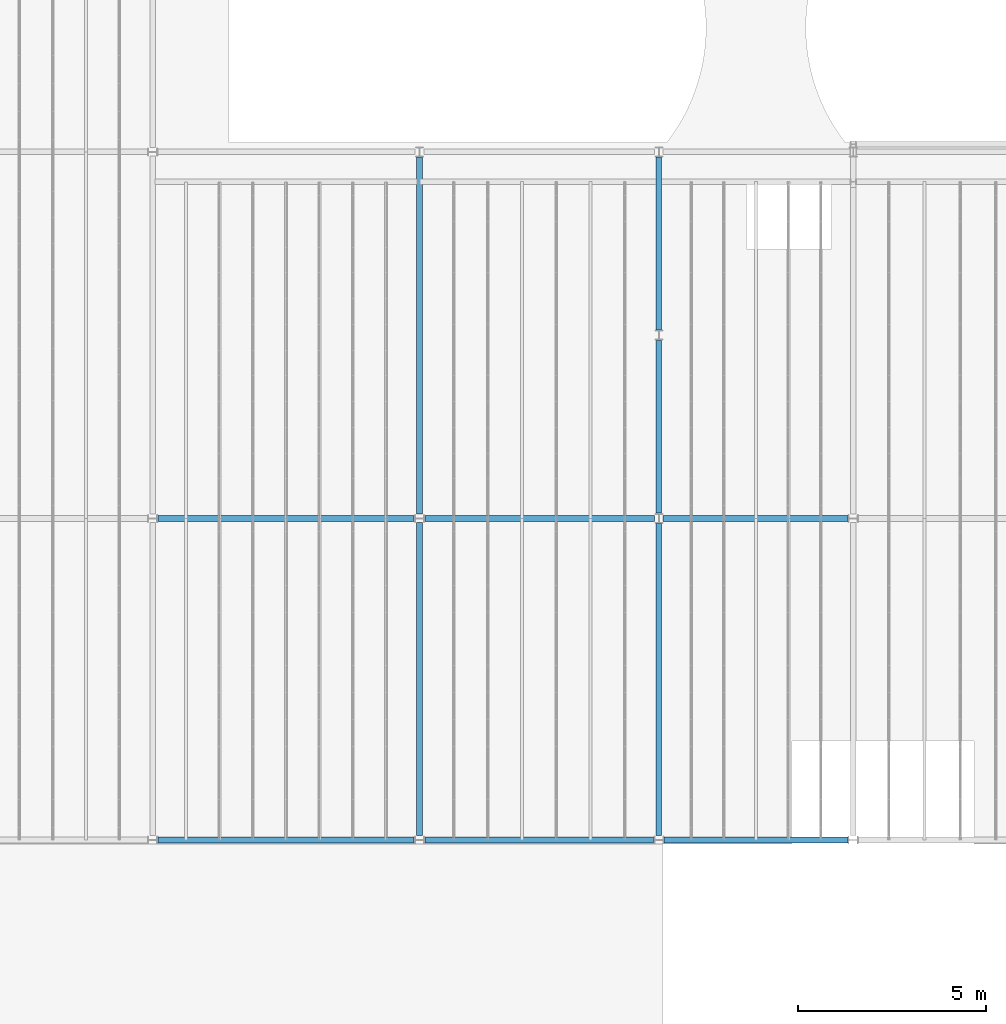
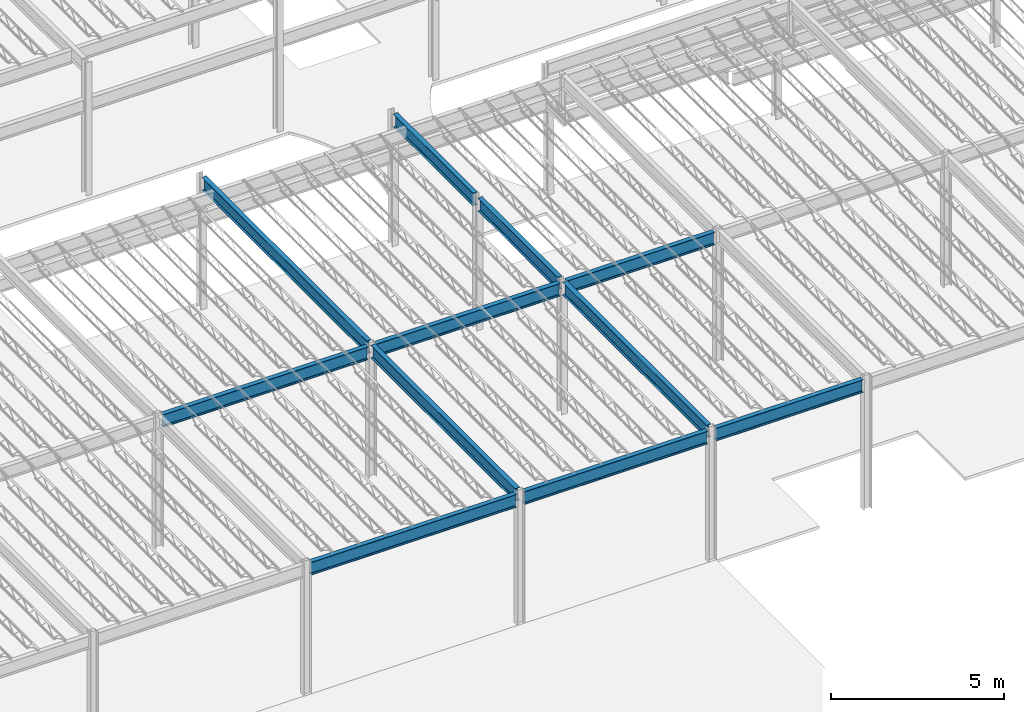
# One storey, part 9 of 119: 11 beams.
"""IFC2X3 building model written with IfcOpenShell, lengths in metres."""

import ifcopenshell
import ifcopenshell.guid

model = None  # the IFC model being written
_history = None  # IfcOwnerHistory: only IFC2X3 demands one
_inside = {}  # id of a spatial element -> (the spatial element, [elements in it])
_under = {}  # id of a project, library or spatial element -> (it, [spatial elements below it])
_declared = {}  # id of a project -> (the project, [libraries it declares])
_typed = {}  # id of a type object -> (the type object, [elements of that type])
_made_of = {}  # id of a material, layer set ... -> (it, [elements and type objects made of it])


def new_model(schema):
    """Start an empty IFC model of exactly this schema.

    Asked for "IFC4X3", IfcOpenShell would pick the latest addendum, in which some entities
    have other attributes; the version numbers below select the first issue.
    IFC2X3 requires an IfcOwnerHistory on every rooted entity: one is made here for all.
    """
    global model, _history
    if schema == "IFC4X3":
        model = ifcopenshell.file(schema_version=(4, 3, 0, 0))
    else:
        model = ifcopenshell.file(schema=schema)
    _inside.clear()
    _under.clear()
    _declared.clear()
    _typed.clear()
    _made_of.clear()
    _history = None
    if model.schema == "IFC2X3":
        org = make("IfcOrganization", Name="unknown")
        user = make(
            "IfcPersonAndOrganization",
            ThePerson=make("IfcPerson", FamilyName="unknown"),
            TheOrganization=org,
        )
        app = make(
            "IfcApplication",
            ApplicationDeveloper=org,
            Version="unknown",
            ApplicationFullName="unknown",
            ApplicationIdentifier="unknown",
        )
        _history = make(
            "IfcOwnerHistory",
            OwningUser=user,
            OwningApplication=app,
            ChangeAction="ADDED",
            CreationDate=0,
        )
    return model


def make(cls, **values):
    """One entity of the class cls with the attributes given. An attribute that is None is left unset."""
    return model.create_entity(
        cls, **{name: value for name, value in values.items() if value is not None}
    )


def entity(cls, *values):
    """Any entity or typed value of the class cls, its attributes in the order of the schema. None: left unset."""
    e = model.create_entity(cls)
    for i, value in enumerate(values):
        if value is not None:
            e[i] = value
    return e


def rooted(cls, **values):
    """An entity with a GlobalId (a new one), such as an element, a storey or a relation."""
    return make(cls, GlobalId=ifcopenshell.guid.new(), OwnerHistory=_history, **values)


def si_unit(unit_type, name, prefix=None):
    """IfcSIUnit, for example si_unit("LENGTHUNIT", "METRE", prefix="MILLI")."""
    return make("IfcSIUnit", UnitType=unit_type, Prefix=prefix, Name=name)


def converted_unit(unit_type, name, factor, base, dimensions=None, offset=None):
    """IfcConversionBasedUnit, such as the inch: factor (a typed value) times the base unit."""
    return make(
        "IfcConversionBasedUnit"
        if offset is None
        else "IfcConversionBasedUnitWithOffset",
        ConversionOffset=offset,
        Dimensions=None
        if dimensions is None
        else entity("IfcDimensionalExponents", *dimensions),
        UnitType=unit_type,
        Name=name,
        ConversionFactor=make(
            "IfcMeasureWithUnit", ValueComponent=factor, UnitComponent=base
        ),
    )


def assignment(units):
    """IfcUnitAssignment: the units of a project."""
    return None if units is None else make("IfcUnitAssignment", Units=units)


def point(xyz):
    """IfcCartesianPoint."""
    return None if xyz is None else make("IfcCartesianPoint", Coordinates=xyz)


def direction(xyz):
    """IfcDirection."""
    return None if xyz is None else make("IfcDirection", DirectionRatios=xyz)


def frame(location, z_axis=None, x_axis=None):
    """IfcAxis2Placement3D, a coordinate frame: its origin and axes. An axis left out is left unset."""
    return make(
        "IfcAxis2Placement3D",
        Location=point(location),
        Axis=direction(z_axis),
        RefDirection=direction(x_axis),
    )


def frame_2d(location, x_axis=None):
    """IfcAxis2Placement2D, a coordinate frame in the plane: its origin and x axis."""
    return make(
        "IfcAxis2Placement2D", Location=point(location), RefDirection=direction(x_axis)
    )


def origin():
    """The frame at (0, 0, 0) with its axes left unset."""
    return frame((0.0, 0.0, 0.0))


def place(relative_to, where):
    """IfcLocalPlacement: puts the frame where relative to a parent placement (None: the world)."""
    return make(
        "IfcLocalPlacement", PlacementRelTo=relative_to, RelativePlacement=where
    )


def context(
    kind, dimensions, precision=None, world=None, true_north=None, identifier=None
):
    """IfcGeometricRepresentationContext, for example the 3D "Model" context."""
    return make(
        "IfcGeometricRepresentationContext",
        ContextIdentifier=identifier,
        ContextType=kind,
        CoordinateSpaceDimension=dimensions,
        Precision=precision,
        WorldCoordinateSystem=world,
        TrueNorth=true_north,
    )


def project(units=None, contexts=None):
    """IfcProject with its units and contexts."""
    return rooted(
        "IfcProject",
        Name="project",
        RepresentationContexts=contexts,
        UnitsInContext=assignment(units),
    )


def spatial(cls, under=None, at=None, **own):
    """A site, building, storey or space (cls), placed at a placement, below another one or the project."""
    s = rooted(cls, ObjectPlacement=at, **own)
    if under is not None:
        _under.setdefault(under.id(), (under, []))[1].append(s)
    return s


def polyline(points):
    """IfcPolyline through the points."""
    return make("IfcPolyline", Points=[point(p) for p in points])


def circle_curve(where, radius):
    """IfcCircle in the frame where."""
    return make("IfcCircle", Position=where, Radius=radius)


def parameter(value):
    """IfcParameterValue: where a trimmed curve begins or ends, as a parameter of its basis curve."""
    return model.create_entity("IfcParameterValue", value)


def trimmed(basis, trim1, trim2, sense, master):
    """IfcTrimmedCurve: the piece of a basis curve between two trims."""
    return make(
        "IfcTrimmedCurve",
        BasisCurve=basis,
        Trim1=trim1,
        Trim2=trim2,
        SenseAgreement=sense,
        MasterRepresentation=master,
    )


def segment(curve, same_sense, transition):
    """IfcCompositeCurveSegment."""
    return make(
        "IfcCompositeCurveSegment",
        Transition=transition,
        SameSense=same_sense,
        ParentCurve=curve,
    )


def composite_curve(segments, self_intersect=None):
    """IfcCompositeCurve: segments joined end to end."""
    return make("IfcCompositeCurve", Segments=segments, SelfIntersect=self_intersect)


def outline(outer, holes=None, kind="AREA"):
    """IfcArbitraryClosedProfileDef: a profile drawn as a closed curve; with holes, ...WithVoids."""
    if holes is None:
        return make("IfcArbitraryClosedProfileDef", ProfileType=kind, OuterCurve=outer)
    return make(
        "IfcArbitraryProfileDefWithVoids",
        ProfileType=kind,
        OuterCurve=outer,
        InnerCurves=holes,
    )


def extrude(swept, where, along, depth):
    """IfcExtrudedAreaSolid: the profile swept, set in the frame where, extruded along a direction by depth."""
    return make(
        "IfcExtrudedAreaSolid",
        SweptArea=swept,
        Position=where,
        ExtrudedDirection=direction(along),
        Depth=depth,
    )


def shape(context_of_items, identifier, shape_type, items):
    """IfcShapeRepresentation: the items that make up one representation, for example the "Body"."""
    return make(
        "IfcShapeRepresentation",
        ContextOfItems=context_of_items,
        RepresentationIdentifier=identifier,
        RepresentationType=shape_type,
        Items=items,
    )


def material(Name=None, Category=None):
    """IfcMaterial."""
    return make("IfcMaterial", Name=Name, Category=Category)


def made_of(thing, what):
    """Note that an element or type object is made of a material, layer set ...; save() writes the relation."""
    if what is not None:
        _made_of.setdefault(what.id(), (what, []))[1].append(thing)
    return thing


def element(
    cls,
    number,
    at=None,
    inside=None,
    cuts=None,
    type_object=None,
    material=None,
    context=None,
    identifier="Body",
    shape_type=None,
    held_by="IfcProductDefinitionShape",
    body=None,
    shapes=None,
    **own,
):
    """One element of the class cls, such as IfcWall. Its Tag is "e" and its number.

    at: its placement. inside: the storey or other place that contains it. cuts: it is an
    opening in that element (IfcRelVoidsElement). A single representation is given by context,
    identifier, shape_type and body (its items); several are given by shapes. held_by: the class
    of the entity that holds the representations. save() writes the other relations.
    """
    e = rooted(cls, Tag="e%d" % number, ObjectPlacement=at, **own)
    if body is not None:
        shapes = [shape(context, identifier, shape_type, body)]
    if shapes is not None:
        e.Representation = make(held_by, Representations=shapes)
    if inside is not None:
        _inside.setdefault(inside.id(), (inside, []))[1].append(e)
    if cuts is not None:
        rooted(
            "IfcRelVoidsElement", RelatingBuildingElement=cuts, RelatedOpeningElement=e
        )
    if type_object is not None:
        _typed.setdefault(type_object.id(), (type_object, []))[1].append(e)
    return made_of(e, material)


def aggregate(whole, parts):
    """IfcRelAggregates: a whole, such as a stair, and the parts it consists of."""
    return rooted("IfcRelAggregates", RelatingObject=whole, RelatedObjects=parts)


def save(model, path):
    """Write the relations noted so far, then the file.

    IfcRelAggregates (storeys below a building ...), IfcRelContainedInSpatialStructure (elements
    in a storey), IfcRelDefinesByType, IfcRelAssociatesMaterial and IfcRelDeclares: one each for
    every whole, place, type object, material and project.
    """
    for whole, parts in _under.values():
        aggregate(whole, parts)
    for where, things in _inside.values():
        rooted(
            "IfcRelContainedInSpatialStructure",
            RelatedElements=things,
            RelatingStructure=where,
        )
    for kind, things in _typed.values():
        rooted("IfcRelDefinesByType", RelatedObjects=things, RelatingType=kind)
    for what, things in _made_of.values():
        rooted("IfcRelAssociatesMaterial", RelatedObjects=things, RelatingMaterial=what)
    for by, libraries in _declared.values():
        rooted("IfcRelDeclares", RelatingContext=by, RelatedDefinitions=libraries)
    model.write(path)


model = new_model("IFC2X3")

# Units and contexts
model_context = context("Model", 3, precision=1e-09, world=origin())
plan_context = context("Plan", 3, precision=1e-09, world=origin())
ifc_project = project(units=[si_unit("LENGTHUNIT", "METRE"), si_unit("AREAUNIT", "SQUARE_METRE"), si_unit("VOLUMEUNIT", "CUBIC_METRE"), converted_unit("PLANEANGLEUNIT", "DEGREE", entity("IfcRatioMeasure", 0.01745329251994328), si_unit("PLANEANGLEUNIT", "RADIAN"), dimensions=[0, 0, 0, 0, 0, 0, 0]), si_unit("TIMEUNIT", "SECOND")], contexts=[model_context, plan_context])

# Site, building, storey
site_placement = place(None, origin())
site = spatial("IfcSite", under=ifc_project, at=site_placement, Name="Default", CompositionType="ELEMENT")
building_placement = place(site_placement, origin())
building = spatial("IfcBuilding", under=site, at=building_placement, CompositionType="ELEMENT")
storey_placement = place(building_placement, frame((0.0, 0.0, 4.570000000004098)))
storey = spatial("IfcBuildingStorey", under=building, at=storey_placement, Name="Second Floor", CompositionType="ELEMENT", Elevation=4.570000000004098)

# Beams
ifc_material = material(Name="Metal - Steel - 345 MPa")
beam_1_placement = place(storey_placement, frame((-26.44265752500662, 18.61000000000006, 4.61649999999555), z_axis=(0.0, 0.0, 1.0), x_axis=(0.0, 1.0, 0.0)))
element("IfcBeam", 1, at=beam_1_placement, inside=storey, material=ifc_material, Name="M_W-Wide Flange:W460X60:W460X60", ObjectType="M_W-Wide Flange:W460X60", context=model_context, shape_type="SweptSolid", body=[
    extrude(outline(composite_curve([segment(polyline([(0.2142000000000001, -0.07650000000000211), (0.2275000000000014, -0.07650000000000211)]), True, "CONTINUOUS"), segment(polyline([(0.2275000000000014, -0.07650000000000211), (0.2275000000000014, 0.07649999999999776)]), True, "CONTINUOUS"), segment(polyline([(0.2275000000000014, 0.07649999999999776), (0.2142000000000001, 0.07649999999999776)]), True, "CONTINUOUS"), segment(polyline([(0.2142000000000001, 0.07649999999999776), (0.2142000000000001, 0.0216999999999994)]), True, "CONTINUOUS"), segment(trimmed(circle_curve(frame_2d((0.1965000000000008, 0.0216999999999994), x_axis=(1.0, 0.0)), 0.0177), [parameter(269.9999999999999)], [parameter(359.9999999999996)], True, "PARAMETER"), False, "CONTINUOUS"), segment(polyline([(0.1965000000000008, 0.003999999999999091), (-0.1964999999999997, 0.003999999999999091)]), True, "CONTINUOUS"), segment(trimmed(circle_curve(frame_2d((-0.1964999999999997, 0.0216999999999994), x_axis=(0.0, -1.0)), 0.0177), [parameter(269.9999999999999)], [parameter(359.9999999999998)], True, "PARAMETER"), False, "CONTINUOUS"), segment(polyline([(-0.2142, 0.0216999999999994), (-0.2142, 0.07649999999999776)]), True, "CONTINUOUS"), segment(polyline([(-0.2142, 0.07649999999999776), (-0.2274999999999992, 0.07649999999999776)]), True, "CONTINUOUS"), segment(polyline([(-0.2274999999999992, 0.07649999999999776), (-0.2274999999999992, -0.07650000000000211)]), True, "CONTINUOUS"), segment(polyline([(-0.2274999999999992, -0.07650000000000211), (-0.2142, -0.07650000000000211)]), True, "CONTINUOUS"), segment(polyline([(-0.2142, -0.07650000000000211), (-0.2142, -0.02170000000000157)]), True, "CONTINUOUS"), segment(trimmed(circle_curve(frame_2d((-0.1964999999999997, -0.02170000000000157), x_axis=(-1.0, 0.0)), 0.0177), [parameter(269.9999999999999)], [parameter(359.9999999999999)], True, "PARAMETER"), False, "CONTINUOUS"), segment(polyline([(-0.1964999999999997, -0.004000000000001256), (0.1965000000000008, -0.004000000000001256)]), True, "CONTINUOUS"), segment(trimmed(circle_curve(frame_2d((0.1965000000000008, -0.02170000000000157), x_axis=(0.0, 1.0)), 0.0177), [parameter(269.9999999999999)], [parameter(5.088887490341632e-14)], True, "PARAMETER"), False, "CONTINUOUS"), segment(polyline([(0.2142000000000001, -0.02170000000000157), (0.2142000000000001, -0.07650000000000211)]), True, "CONTINUOUS")], self_intersect=False)), frame((0.0, 6.966142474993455, -0.2275000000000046), z_axis=(0.0, -1.0, 0.0), x_axis=(0.0, 0.0, -1.0)), (0.0, 0.0, 1.0), 6.827600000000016),
])
beam_2_placement = place(storey_placement, frame((-20.06296151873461, 18.61000000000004, 4.61649999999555), z_axis=(0.0, 0.0, 1.0), x_axis=(0.0, 1.0, 0.0)))
element("IfcBeam", 2, at=beam_2_placement, inside=storey, material=ifc_material, Name="M_W-Wide Flange:W460X60:W460X60", ObjectType="M_W-Wide Flange:W460X60", context=model_context, shape_type="SweptSolid", body=[
    extrude(outline(composite_curve([segment(polyline([(0.2142000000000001, -0.0765000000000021), (0.2275000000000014, -0.0765000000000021)]), True, "CONTINUOUS"), segment(polyline([(0.2275000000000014, -0.0765000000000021), (0.2275000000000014, 0.07649999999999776)]), True, "CONTINUOUS"), segment(polyline([(0.2275000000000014, 0.07649999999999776), (0.2142000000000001, 0.07649999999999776)]), True, "CONTINUOUS"), segment(polyline([(0.2142000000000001, 0.07649999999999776), (0.2142000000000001, 0.0216999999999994)]), True, "CONTINUOUS"), segment(trimmed(circle_curve(frame_2d((0.1965000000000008, 0.0216999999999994), x_axis=(0.0, 1.0)), 0.0177), [parameter(180.0)], [parameter(269.9999999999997)], True, "PARAMETER"), False, "CONTINUOUS"), segment(polyline([(0.1965000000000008, 0.00399999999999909), (-0.1964999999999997, 0.00399999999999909)]), True, "CONTINUOUS"), segment(trimmed(circle_curve(frame_2d((-0.1964999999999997, 0.0216999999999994), x_axis=(0.0, 1.0)), 0.0177), [parameter(90.00000000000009)], [parameter(179.9999999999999)], True, "PARAMETER"), False, "CONTINUOUS"), segment(polyline([(-0.2142, 0.0216999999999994), (-0.2142, 0.07649999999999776)]), True, "CONTINUOUS"), segment(polyline([(-0.2142, 0.07649999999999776), (-0.2274999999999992, 0.07649999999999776)]), True, "CONTINUOUS"), segment(polyline([(-0.2274999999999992, 0.07649999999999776), (-0.2274999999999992, -0.0765000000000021)]), True, "CONTINUOUS"), segment(polyline([(-0.2274999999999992, -0.0765000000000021), (-0.2142, -0.0765000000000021)]), True, "CONTINUOUS"), segment(polyline([(-0.2142, -0.0765000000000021), (-0.2142, -0.02170000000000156)]), True, "CONTINUOUS"), segment(trimmed(circle_curve(frame_2d((-0.1964999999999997, -0.02170000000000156), x_axis=(0.0, 1.0)), 0.0177), [parameter(359.9999999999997)], [parameter(89.99999999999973)], True, "PARAMETER"), False, "CONTINUOUS"), segment(polyline([(-0.1964999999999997, -0.004000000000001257), (0.1965000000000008, -0.004000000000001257)]), True, "CONTINUOUS"), segment(trimmed(circle_curve(frame_2d((0.1965000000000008, -0.02170000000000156), x_axis=(0.0, 1.0)), 0.0177), [parameter(269.9999999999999)], [parameter(0.0)], True, "PARAMETER"), False, "CONTINUOUS"), segment(polyline([(0.2142000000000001, -0.02170000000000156), (0.2142000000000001, -0.0765000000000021)]), True, "CONTINUOUS")], self_intersect=False)), frame((0.0, 6.235838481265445, -0.2275000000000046), z_axis=(0.0, -1.0, 0.0), x_axis=(0.0, 0.0, -1.0)), (0.0, 0.0, 1.0), 6.124100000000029),
])
beam_3_placement = place(storey_placement, frame((-20.06000000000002, 23.49837058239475, 4.679999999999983)))
element("IfcBeam", 3, at=beam_3_placement, inside=storey, material=ifc_material, Name="M_W-Wide Flange:W460X60:W460X60", ObjectType="M_W-Wide Flange:W460X60", context=model_context, shape_type="SweptSolid", body=[
    extrude(outline(composite_curve([segment(polyline([(-0.07649999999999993, -0.214199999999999), (-0.07649999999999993, -0.2275000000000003)]), True, "CONTINUOUS"), segment(polyline([(-0.07649999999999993, -0.2275000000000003), (0.07649999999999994, -0.2275000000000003)]), True, "CONTINUOUS"), segment(polyline([(0.07649999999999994, -0.2275000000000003), (0.07649999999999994, -0.214199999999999)]), True, "CONTINUOUS"), segment(polyline([(0.07649999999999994, -0.214199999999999), (0.0216999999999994, -0.214199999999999)]), True, "CONTINUOUS"), segment(trimmed(circle_curve(frame_2d((0.0216999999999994, -0.1964999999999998), x_axis=(0.0, -1.0)), 0.0177), [parameter(269.9999999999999)], [parameter(359.9999999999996)], True, "PARAMETER"), False, "CONTINUOUS"), segment(polyline([(0.00399999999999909, -0.1964999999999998), (0.00399999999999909, 0.1965000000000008)]), True, "CONTINUOUS"), segment(trimmed(circle_curve(frame_2d((0.0216999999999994, 0.1965000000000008), x_axis=(-1.0, 0.0)), 0.0177), [parameter(269.9999999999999)], [parameter(359.9999999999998)], True, "PARAMETER"), False, "CONTINUOUS"), segment(polyline([(0.0216999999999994, 0.2142000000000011), (0.07649999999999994, 0.2142000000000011)]), True, "CONTINUOUS"), segment(polyline([(0.07649999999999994, 0.2142000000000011), (0.07649999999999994, 0.2275000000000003)]), True, "CONTINUOUS"), segment(polyline([(0.07649999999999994, 0.2275000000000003), (-0.07649999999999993, 0.2275000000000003)]), True, "CONTINUOUS"), segment(polyline([(-0.07649999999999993, 0.2275000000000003), (-0.07649999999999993, 0.2142000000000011)]), True, "CONTINUOUS"), segment(polyline([(-0.07649999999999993, 0.2142000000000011), (-0.0216999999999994, 0.2142000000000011)]), True, "CONTINUOUS"), segment(trimmed(circle_curve(frame_2d((-0.0216999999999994, 0.1965000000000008), x_axis=(0.0, 1.0)), 0.0177), [parameter(269.9999999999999)], [parameter(359.9999999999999)], True, "PARAMETER"), False, "CONTINUOUS"), segment(polyline([(-0.003999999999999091, 0.1965000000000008), (-0.003999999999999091, -0.1964999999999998)]), True, "CONTINUOUS"), segment(trimmed(circle_curve(frame_2d((-0.0216999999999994, -0.1964999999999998), x_axis=(1.0, 0.0)), 0.0177), [parameter(269.9999999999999)], [parameter(5.088887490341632e-14)], True, "PARAMETER"), False, "CONTINUOUS"), segment(polyline([(-0.0216999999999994, -0.214199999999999), (-0.07649999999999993, -0.214199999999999)]), True, "CONTINUOUS")], self_intersect=False)), frame((0.0, 0.1369206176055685, -0.2275000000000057), z_axis=(0.0, -1.0, 0.0), x_axis=(1.0, 0.0, 0.0)), (0.0, 0.0, -1.0), 4.60350879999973),
])
beam_4_placement = place(storey_placement, frame((-26.43703848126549, 10.04, 4.61649999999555), z_axis=(0.0, 0.0, 1.0), x_axis=(0.0, -1.0, 0.0)))
element("IfcBeam", 4, at=beam_4_placement, inside=storey, material=ifc_material, Name="M_W-Wide Flange:W460X60:W460X60", ObjectType="M_W-Wide Flange:W460X60", context=model_context, shape_type="SweptSolid", body=[
    extrude(outline(composite_curve([segment(polyline([(-0.07649999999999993, -0.2142000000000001), (-0.07649999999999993, -0.2275000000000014)]), True, "CONTINUOUS"), segment(polyline([(-0.07649999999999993, -0.2275000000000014), (0.07649999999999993, -0.2275000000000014)]), True, "CONTINUOUS"), segment(polyline([(0.07649999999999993, -0.2275000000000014), (0.07649999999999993, -0.2142000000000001)]), True, "CONTINUOUS"), segment(polyline([(0.07649999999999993, -0.2142000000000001), (0.02170000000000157, -0.2142000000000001)]), True, "CONTINUOUS"), segment(trimmed(circle_curve(frame_2d((0.02170000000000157, -0.1965000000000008), x_axis=(0.0, -1.0)), 0.0177), [parameter(269.9999999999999)], [parameter(359.9999999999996)], True, "PARAMETER"), False, "CONTINUOUS"), segment(polyline([(0.004000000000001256, -0.1965000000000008), (0.004000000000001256, 0.1964999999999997)]), True, "CONTINUOUS"), segment(trimmed(circle_curve(frame_2d((0.02170000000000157, 0.1964999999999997), x_axis=(-1.0, 0.0)), 0.0177), [parameter(269.9999999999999)], [parameter(359.9999999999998)], True, "PARAMETER"), False, "CONTINUOUS"), segment(polyline([(0.02170000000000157, 0.2142), (0.07649999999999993, 0.2142)]), True, "CONTINUOUS"), segment(polyline([(0.07649999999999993, 0.2142), (0.07649999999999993, 0.2274999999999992)]), True, "CONTINUOUS"), segment(polyline([(0.07649999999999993, 0.2274999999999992), (-0.07649999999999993, 0.2274999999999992)]), True, "CONTINUOUS"), segment(polyline([(-0.07649999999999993, 0.2274999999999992), (-0.07649999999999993, 0.2142)]), True, "CONTINUOUS"), segment(polyline([(-0.07649999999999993, 0.2142), (-0.0216999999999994, 0.2142)]), True, "CONTINUOUS"), segment(trimmed(circle_curve(frame_2d((-0.0216999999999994, 0.1964999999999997), x_axis=(0.0, 1.0)), 0.0177), [parameter(269.9999999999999)], [parameter(359.9999999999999)], True, "PARAMETER"), False, "CONTINUOUS"), segment(polyline([(-0.003999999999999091, 0.1964999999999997), (-0.003999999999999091, -0.1965000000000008)]), True, "CONTINUOUS"), segment(trimmed(circle_curve(frame_2d((-0.0216999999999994, -0.1965000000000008), x_axis=(1.0, 0.0)), 0.0177), [parameter(269.9999999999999)], [parameter(5.088887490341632e-14)], True, "PARAMETER"), False, "CONTINUOUS"), segment(polyline([(-0.0216999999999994, -0.2142000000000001), (-0.07649999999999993, -0.2142000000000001)]), True, "CONTINUOUS")], self_intersect=False)), frame((0.0, 0.1382384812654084, -0.2275000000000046), z_axis=(0.0, -1.0, 0.0), x_axis=(1.0, 0.0, 0.0)), (0.0, 0.0, -1.0), 6.097600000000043),
])
beam_5_placement = place(storey_placement, frame((-26.44000000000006, 18.60779513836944, 4.679999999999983), z_axis=(0.0, 0.0, 1.0), x_axis=(-1.0, 0.0, 0.0)))
element("IfcBeam", 5, at=beam_5_placement, inside=storey, material=ifc_material, Name="M_W-Wide Flange:W460X60:W460X60", ObjectType="M_W-Wide Flange:W460X60", context=model_context, shape_type="SweptSolid", body=[
    extrude(outline(composite_curve([segment(polyline([(0.2142000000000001, -0.07649999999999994), (0.2275000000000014, -0.07649999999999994)]), True, "CONTINUOUS"), segment(polyline([(0.2275000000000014, -0.07649999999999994), (0.2275000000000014, 0.07649999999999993)]), True, "CONTINUOUS"), segment(polyline([(0.2275000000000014, 0.07649999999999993), (0.2142000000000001, 0.07649999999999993)]), True, "CONTINUOUS"), segment(polyline([(0.2142000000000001, 0.07649999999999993), (0.2142000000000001, 0.0216999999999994)]), True, "CONTINUOUS"), segment(trimmed(circle_curve(frame_2d((0.1965000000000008, 0.0216999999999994), x_axis=(1.0, 0.0)), 0.0177), [parameter(269.9999999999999)], [parameter(359.9999999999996)], True, "PARAMETER"), False, "CONTINUOUS"), segment(polyline([(0.1965000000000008, 0.00399999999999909), (-0.1964999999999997, 0.00399999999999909)]), True, "CONTINUOUS"), segment(trimmed(circle_curve(frame_2d((-0.1964999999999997, 0.0216999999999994), x_axis=(0.0, -1.0)), 0.0177), [parameter(269.9999999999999)], [parameter(359.9999999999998)], True, "PARAMETER"), False, "CONTINUOUS"), segment(polyline([(-0.2142, 0.0216999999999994), (-0.2142, 0.07649999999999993)]), True, "CONTINUOUS"), segment(polyline([(-0.2142, 0.07649999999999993), (-0.2274999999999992, 0.07649999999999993)]), True, "CONTINUOUS"), segment(polyline([(-0.2274999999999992, 0.07649999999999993), (-0.2274999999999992, -0.07649999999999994)]), True, "CONTINUOUS"), segment(polyline([(-0.2274999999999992, -0.07649999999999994), (-0.2142, -0.07649999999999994)]), True, "CONTINUOUS"), segment(polyline([(-0.2142, -0.07649999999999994), (-0.2142, -0.0216999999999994)]), True, "CONTINUOUS"), segment(trimmed(circle_curve(frame_2d((-0.1964999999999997, -0.0216999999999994), x_axis=(-1.0, 0.0)), 0.0177), [parameter(269.9999999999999)], [parameter(359.9999999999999)], True, "PARAMETER"), False, "CONTINUOUS"), segment(polyline([(-0.1964999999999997, -0.003999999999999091), (0.1965000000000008, -0.003999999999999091)]), True, "CONTINUOUS"), segment(trimmed(circle_curve(frame_2d((0.1965000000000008, -0.0216999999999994), x_axis=(0.0, 1.0)), 0.0177), [parameter(269.9999999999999)], [parameter(5.088887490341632e-14)], True, "PARAMETER"), False, "CONTINUOUS"), segment(polyline([(0.2142000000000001, -0.0216999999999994), (0.2142000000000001, -0.07649999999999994)]), True, "CONTINUOUS")], self_intersect=False)), frame((0.0, 8.4530951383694, -0.2275000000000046), z_axis=(0.0, -1.0, 0.0), x_axis=(0.0, 0.0, -1.0)), (0.0, 0.0, 1.0), 8.340600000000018),
])
beam_6_placement = place(storey_placement, frame((-20.06000000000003, 18.61386819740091, 4.680000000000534)))
element("IfcBeam", 6, at=beam_6_placement, inside=storey, material=ifc_material, Name="M_W-Wide Flange:W460X60:W460X60", ObjectType="M_W-Wide Flange:W460X60", context=model_context, shape_type="SweptSolid", body=[
    extrude(outline(composite_curve([segment(polyline([(-0.07650000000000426, -0.2142000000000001), (-0.07650000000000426, -0.2275000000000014)]), True, "CONTINUOUS"), segment(polyline([(-0.07650000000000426, -0.2275000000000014), (0.0764999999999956, -0.2275000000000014)]), True, "CONTINUOUS"), segment(polyline([(0.0764999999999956, -0.2275000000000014), (0.0764999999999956, -0.2142000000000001)]), True, "CONTINUOUS"), segment(polyline([(0.0764999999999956, -0.2142000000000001), (0.02169999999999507, -0.2142000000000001)]), True, "CONTINUOUS"), segment(trimmed(circle_curve(frame_2d((0.02169999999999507, -0.1965000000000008), x_axis=(0.0, -1.0)), 0.0177), [parameter(269.9999999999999)], [parameter(359.9999999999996)], True, "PARAMETER"), False, "CONTINUOUS"), segment(polyline([(0.00399999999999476, -0.1965000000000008), (0.00399999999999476, 0.1964999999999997)]), True, "CONTINUOUS"), segment(trimmed(circle_curve(frame_2d((0.02169999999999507, 0.1964999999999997), x_axis=(-1.0, 0.0)), 0.0177), [parameter(269.9999999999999)], [parameter(359.9999999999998)], True, "PARAMETER"), False, "CONTINUOUS"), segment(polyline([(0.02169999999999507, 0.2142), (0.0764999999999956, 0.2142)]), True, "CONTINUOUS"), segment(polyline([(0.0764999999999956, 0.2142), (0.0764999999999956, 0.2274999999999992)]), True, "CONTINUOUS"), segment(polyline([(0.0764999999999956, 0.2274999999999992), (-0.07650000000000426, 0.2274999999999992)]), True, "CONTINUOUS"), segment(polyline([(-0.07650000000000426, 0.2274999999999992), (-0.07650000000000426, 0.2142)]), True, "CONTINUOUS"), segment(polyline([(-0.07650000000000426, 0.2142), (-0.02170000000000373, 0.2142)]), True, "CONTINUOUS"), segment(trimmed(circle_curve(frame_2d((-0.02170000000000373, 0.1964999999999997), x_axis=(0.0, 1.0)), 0.0177), [parameter(269.9999999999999)], [parameter(359.9999999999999)], True, "PARAMETER"), False, "CONTINUOUS"), segment(polyline([(-0.004000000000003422, 0.1964999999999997), (-0.004000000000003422, -0.1965000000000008)]), True, "CONTINUOUS"), segment(trimmed(circle_curve(frame_2d((-0.02170000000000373, -0.1965000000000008), x_axis=(1.0, 0.0)), 0.0177), [parameter(269.9999999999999)], [parameter(5.088887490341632e-14)], True, "PARAMETER"), False, "CONTINUOUS"), segment(polyline([(-0.02170000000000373, -0.2142000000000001), (-0.07650000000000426, -0.2142000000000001)]), True, "CONTINUOUS")], self_intersect=False)), frame((0.0, 0.1373318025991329, -0.2275000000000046), z_axis=(0.0, -1.0, 0.0), x_axis=(1.0, 0.0, 0.0)), (0.0, 0.0, -1.0), 4.601691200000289),
])
beam_7_placement = place(storey_placement, frame((-33.54734247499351, 10.04000000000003, 4.61649999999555), z_axis=(0.0, 0.0, 1.0), x_axis=(0.0, -1.0, 0.0)))
element("IfcBeam", 7, at=beam_7_placement, inside=storey, material=ifc_material, Name="M_W-Wide Flange:W460X60:W460X60", ObjectType="M_W-Wide Flange:W460X60", context=model_context, shape_type="SweptSolid", body=[
    extrude(outline(composite_curve([segment(polyline([(-0.07649999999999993, -0.2142000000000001), (-0.07649999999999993, -0.2275000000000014)]), True, "CONTINUOUS"), segment(polyline([(-0.07649999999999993, -0.2275000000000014), (0.07649999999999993, -0.2275000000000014)]), True, "CONTINUOUS"), segment(polyline([(0.07649999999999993, -0.2275000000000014), (0.07649999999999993, -0.2142000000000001)]), True, "CONTINUOUS"), segment(polyline([(0.07649999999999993, -0.2142000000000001), (0.02170000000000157, -0.2142000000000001)]), True, "CONTINUOUS"), segment(trimmed(circle_curve(frame_2d((0.0216999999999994, -0.1965000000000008), x_axis=(0.0, -1.0)), 0.0177), [parameter(269.9999999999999)], [parameter(359.9999999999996)], True, "PARAMETER"), False, "CONTINUOUS"), segment(polyline([(0.004000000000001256, -0.1965000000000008), (0.004000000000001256, 0.1964999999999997)]), True, "CONTINUOUS"), segment(trimmed(circle_curve(frame_2d((0.0216999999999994, 0.1964999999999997), x_axis=(-1.0, 0.0)), 0.0177), [parameter(269.9999999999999)], [parameter(359.9999999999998)], True, "PARAMETER"), False, "CONTINUOUS"), segment(polyline([(0.02170000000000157, 0.2142), (0.07649999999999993, 0.2142)]), True, "CONTINUOUS"), segment(polyline([(0.07649999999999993, 0.2142), (0.07649999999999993, 0.2274999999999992)]), True, "CONTINUOUS"), segment(polyline([(0.07649999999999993, 0.2274999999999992), (-0.07649999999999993, 0.2274999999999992)]), True, "CONTINUOUS"), segment(polyline([(-0.07649999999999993, 0.2274999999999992), (-0.07649999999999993, 0.2142)]), True, "CONTINUOUS"), segment(polyline([(-0.07649999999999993, 0.2142), (-0.0216999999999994, 0.2142)]), True, "CONTINUOUS"), segment(trimmed(circle_curve(frame_2d((-0.02170000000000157, 0.1964999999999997), x_axis=(0.0, 1.0)), 0.0177), [parameter(269.9999999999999)], [parameter(359.9999999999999)], True, "PARAMETER"), False, "CONTINUOUS"), segment(polyline([(-0.003999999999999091, 0.1964999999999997), (-0.003999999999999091, -0.1965000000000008)]), True, "CONTINUOUS"), segment(trimmed(circle_curve(frame_2d((-0.02170000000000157, -0.1965000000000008), x_axis=(1.0, 0.0)), 0.0177), [parameter(269.9999999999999)], [parameter(5.088887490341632e-14)], True, "PARAMETER"), False, "CONTINUOUS"), segment(polyline([(-0.0216999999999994, -0.2142000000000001), (-0.07649999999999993, -0.2142000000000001)]), True, "CONTINUOUS")], self_intersect=False)), frame((0.0, 0.1385424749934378, -0.2275000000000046), z_axis=(0.0, -1.0, 0.0), x_axis=(1.0, 0.0, 0.0)), (0.0, 0.0, -1.0), 6.827600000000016),
])
beam_8_placement = place(storey_placement, frame((-20.06000000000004, 10.0422048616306, 4.679999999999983)))
element("IfcBeam", 8, at=beam_8_placement, inside=storey, material=ifc_material, Name="M_W-Wide Flange:W460X60:W460X60", ObjectType="M_W-Wide Flange:W460X60", context=model_context, shape_type="SweptSolid", body=[
    extrude(outline(composite_curve([segment(polyline([(-0.07649999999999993, -0.214199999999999), (-0.07649999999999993, -0.2275000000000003)]), True, "CONTINUOUS"), segment(polyline([(-0.07649999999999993, -0.2275000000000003), (0.07649999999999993, -0.2275000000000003)]), True, "CONTINUOUS"), segment(polyline([(0.07649999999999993, -0.2275000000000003), (0.07649999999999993, -0.214199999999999)]), True, "CONTINUOUS"), segment(polyline([(0.07649999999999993, -0.214199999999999), (0.0216999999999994, -0.214199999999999)]), True, "CONTINUOUS"), segment(trimmed(circle_curve(frame_2d((0.02169999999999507, -0.1964999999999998), x_axis=(0.0, -1.0)), 0.0177), [parameter(269.9999999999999)], [parameter(359.9999999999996)], True, "PARAMETER"), False, "CONTINUOUS"), segment(polyline([(0.00399999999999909, -0.1964999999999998), (0.00399999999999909, 0.1965000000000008)]), True, "CONTINUOUS"), segment(trimmed(circle_curve(frame_2d((0.02169999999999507, 0.1965000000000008), x_axis=(-1.0, 0.0)), 0.0177), [parameter(269.9999999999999)], [parameter(359.9999999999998)], True, "PARAMETER"), False, "CONTINUOUS"), segment(polyline([(0.0216999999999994, 0.2142000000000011), (0.07649999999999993, 0.2142000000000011)]), True, "CONTINUOUS"), segment(polyline([(0.07649999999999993, 0.2142000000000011), (0.07649999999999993, 0.2275000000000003)]), True, "CONTINUOUS"), segment(polyline([(0.07649999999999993, 0.2275000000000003), (-0.07649999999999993, 0.2275000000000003)]), True, "CONTINUOUS"), segment(polyline([(-0.07649999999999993, 0.2275000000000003), (-0.07649999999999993, 0.2142000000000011)]), True, "CONTINUOUS"), segment(polyline([(-0.07649999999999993, 0.2142000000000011), (-0.0216999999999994, 0.2142000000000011)]), True, "CONTINUOUS"), segment(trimmed(circle_curve(frame_2d((-0.02170000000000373, 0.1965000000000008), x_axis=(0.0, 1.0)), 0.0177), [parameter(269.9999999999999)], [parameter(359.9999999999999)], True, "PARAMETER"), False, "CONTINUOUS"), segment(polyline([(-0.003999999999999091, 0.1965000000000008), (-0.003999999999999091, -0.1964999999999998)]), True, "CONTINUOUS"), segment(trimmed(circle_curve(frame_2d((-0.02170000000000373, -0.1964999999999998), x_axis=(1.0, 0.0)), 0.0177), [parameter(269.9999999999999)], [parameter(5.088887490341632e-14)], True, "PARAMETER"), False, "CONTINUOUS"), segment(polyline([(-0.0216999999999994, -0.214199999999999), (-0.07649999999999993, -0.214199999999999)]), True, "CONTINUOUS")], self_intersect=False)), frame((0.0, 0.1124951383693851, -0.2275000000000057), z_axis=(0.0, -1.0, 0.0), x_axis=(1.0, 0.0, 0.0)), (0.0, 0.0, -1.0), 8.314100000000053),
])
beam_9_placement = place(storey_placement, frame((-14.88362230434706, 18.61000000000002, 4.61649999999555), z_axis=(0.0, 0.0, 1.0), x_axis=(0.0, 1.0, 0.0)))
element("IfcBeam", 9, at=beam_9_placement, inside=storey, material=ifc_material, Name="M_W-Wide Flange:W460X60:W460X60", ObjectType="M_W-Wide Flange:W460X60", context=model_context, shape_type="SweptSolid", body=[
    extrude(outline(composite_curve([segment(polyline([(0.2142000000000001, -0.07649999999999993), (0.2275000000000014, -0.07649999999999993)]), True, "CONTINUOUS"), segment(polyline([(0.2275000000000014, -0.07649999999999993), (0.2275000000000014, 0.07649999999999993)]), True, "CONTINUOUS"), segment(polyline([(0.2275000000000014, 0.07649999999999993), (0.2142000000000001, 0.07649999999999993)]), True, "CONTINUOUS"), segment(polyline([(0.2142000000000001, 0.07649999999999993), (0.2142000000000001, 0.02170000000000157)]), True, "CONTINUOUS"), segment(trimmed(circle_curve(frame_2d((0.1965000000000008, 0.02170000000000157), x_axis=(0.0, 1.0)), 0.0177), [parameter(180.0)], [parameter(269.9999999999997)], True, "PARAMETER"), False, "CONTINUOUS"), segment(polyline([(0.1965000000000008, 0.004000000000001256), (-0.1964999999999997, 0.004000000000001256)]), True, "CONTINUOUS"), segment(trimmed(circle_curve(frame_2d((-0.1964999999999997, 0.02170000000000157), x_axis=(0.0, 1.0)), 0.0177), [parameter(90.00000000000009)], [parameter(179.9999999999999)], True, "PARAMETER"), False, "CONTINUOUS"), segment(polyline([(-0.2142, 0.02170000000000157), (-0.2142, 0.07649999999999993)]), True, "CONTINUOUS"), segment(polyline([(-0.2142, 0.07649999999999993), (-0.2274999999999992, 0.07649999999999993)]), True, "CONTINUOUS"), segment(polyline([(-0.2274999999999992, 0.07649999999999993), (-0.2274999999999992, -0.07649999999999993)]), True, "CONTINUOUS"), segment(polyline([(-0.2274999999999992, -0.07649999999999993), (-0.2142, -0.07649999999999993)]), True, "CONTINUOUS"), segment(polyline([(-0.2142, -0.07649999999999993), (-0.2142, -0.0216999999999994)]), True, "CONTINUOUS"), segment(trimmed(circle_curve(frame_2d((-0.1964999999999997, -0.0216999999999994), x_axis=(0.0, 1.0)), 0.0177), [parameter(359.9999999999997)], [parameter(89.99999999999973)], True, "PARAMETER"), False, "CONTINUOUS"), segment(polyline([(-0.1964999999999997, -0.003999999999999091), (0.1965000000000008, -0.003999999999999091)]), True, "CONTINUOUS"), segment(trimmed(circle_curve(frame_2d((0.1965000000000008, -0.0216999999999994), x_axis=(0.0, 1.0)), 0.0177), [parameter(269.9999999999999)], [parameter(0.0)], True, "PARAMETER"), False, "CONTINUOUS"), segment(polyline([(0.2142000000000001, -0.0216999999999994), (0.2142000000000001, -0.07649999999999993)]), True, "CONTINUOUS")], self_intersect=False)), frame((0.0, 5.061677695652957, -0.2275000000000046), z_axis=(0.0, -1.0, 0.0), x_axis=(0.0, 0.0, -1.0)), (0.0, 0.0, 1.0), 4.924125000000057),
])
beam_10_placement = place(storey_placement, frame((-26.44000000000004, 28.37806591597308, 4.680000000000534), z_axis=(0.0, 0.0, 1.0), x_axis=(-1.0, 0.0, 0.0)))
element("IfcBeam", 10, at=beam_10_placement, inside=storey, material=ifc_material, Name="M_W-Wide Flange:W460X60:W460X60", ObjectType="M_W-Wide Flange:W460X60", context=model_context, shape_type="SweptSolid", body=[
    extrude(outline(composite_curve([segment(polyline([(0.2142000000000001, -0.0764999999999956), (0.2275000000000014, -0.0764999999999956)]), True, "CONTINUOUS"), segment(polyline([(0.2275000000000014, -0.0764999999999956), (0.2275000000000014, 0.07650000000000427)]), True, "CONTINUOUS"), segment(polyline([(0.2275000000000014, 0.07650000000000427), (0.2142000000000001, 0.07650000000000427)]), True, "CONTINUOUS"), segment(polyline([(0.2142000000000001, 0.07650000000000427), (0.2142000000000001, 0.02170000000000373)]), True, "CONTINUOUS"), segment(trimmed(circle_curve(frame_2d((0.1965000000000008, 0.02170000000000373), x_axis=(1.0, 0.0)), 0.0177), [parameter(269.9999999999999)], [parameter(359.9999999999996)], True, "PARAMETER"), False, "CONTINUOUS"), segment(polyline([(0.1965000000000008, 0.004000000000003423), (-0.1964999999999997, 0.004000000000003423)]), True, "CONTINUOUS"), segment(trimmed(circle_curve(frame_2d((-0.1964999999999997, 0.02170000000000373), x_axis=(0.0, -1.0)), 0.0177), [parameter(269.9999999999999)], [parameter(359.9999999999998)], True, "PARAMETER"), False, "CONTINUOUS"), segment(polyline([(-0.2142, 0.02170000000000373), (-0.2142, 0.07650000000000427)]), True, "CONTINUOUS"), segment(polyline([(-0.2142, 0.07650000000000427), (-0.2274999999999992, 0.07650000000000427)]), True, "CONTINUOUS"), segment(polyline([(-0.2274999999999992, 0.07650000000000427), (-0.2274999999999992, -0.0764999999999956)]), True, "CONTINUOUS"), segment(polyline([(-0.2274999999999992, -0.0764999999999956), (-0.2142, -0.0764999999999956)]), True, "CONTINUOUS"), segment(polyline([(-0.2142, -0.0764999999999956), (-0.2142, -0.02169999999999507)]), True, "CONTINUOUS"), segment(trimmed(circle_curve(frame_2d((-0.1964999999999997, -0.02169999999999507), x_axis=(-1.0, 0.0)), 0.0177), [parameter(269.9999999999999)], [parameter(359.9999999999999)], True, "PARAMETER"), False, "CONTINUOUS"), segment(polyline([(-0.1964999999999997, -0.003999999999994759), (0.1965000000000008, -0.003999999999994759)]), True, "CONTINUOUS"), segment(trimmed(circle_curve(frame_2d((0.1965000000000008, -0.02169999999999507), x_axis=(0.0, 1.0)), 0.0177), [parameter(269.9999999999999)], [parameter(5.088887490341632e-14)], True, "PARAMETER"), False, "CONTINUOUS"), segment(polyline([(0.2142000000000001, -0.02169999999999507), (0.2142000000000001, -0.0764999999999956)]), True, "CONTINUOUS")], self_intersect=False)), frame((0.0, 9.653365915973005, -0.2275000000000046), z_axis=(0.0, -1.0, 0.0), x_axis=(0.0, 0.0, -1.0)), (0.0, 0.0, 1.0), 9.514099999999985),
])
beam_11_placement = place(storey_placement, frame((-14.88362230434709, 10.03999999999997, 4.61649999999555), z_axis=(0.0, 0.0, 1.0), x_axis=(0.0, 1.0, 0.0)))
element("IfcBeam", 11, at=beam_11_placement, inside=storey, material=ifc_material, Name="M_W-Wide Flange:W460X60:W460X60", ObjectType="M_W-Wide Flange:W460X60", context=model_context, shape_type="SweptSolid", body=[
    extrude(outline(composite_curve([segment(polyline([(0.2142000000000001, -0.07649999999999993), (0.2275000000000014, -0.07649999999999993)]), True, "CONTINUOUS"), segment(polyline([(0.2275000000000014, -0.07649999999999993), (0.2275000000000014, 0.07649999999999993)]), True, "CONTINUOUS"), segment(polyline([(0.2275000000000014, 0.07649999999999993), (0.2142000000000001, 0.07649999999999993)]), True, "CONTINUOUS"), segment(polyline([(0.2142000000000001, 0.07649999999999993), (0.2142000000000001, 0.02170000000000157)]), True, "CONTINUOUS"), segment(trimmed(circle_curve(frame_2d((0.1965000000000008, 0.02170000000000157), x_axis=(1.0, 0.0)), 0.0177), [parameter(269.9999999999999)], [parameter(359.9999999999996)], True, "PARAMETER"), False, "CONTINUOUS"), segment(polyline([(0.1965000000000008, 0.004000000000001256), (-0.1964999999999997, 0.004000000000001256)]), True, "CONTINUOUS"), segment(trimmed(circle_curve(frame_2d((-0.1964999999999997, 0.02170000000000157), x_axis=(0.0, -1.0)), 0.0177), [parameter(269.9999999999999)], [parameter(359.9999999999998)], True, "PARAMETER"), False, "CONTINUOUS"), segment(polyline([(-0.2142, 0.02170000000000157), (-0.2142, 0.07649999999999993)]), True, "CONTINUOUS"), segment(polyline([(-0.2142, 0.07649999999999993), (-0.2274999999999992, 0.07649999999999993)]), True, "CONTINUOUS"), segment(polyline([(-0.2274999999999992, 0.07649999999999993), (-0.2274999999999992, -0.07649999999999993)]), True, "CONTINUOUS"), segment(polyline([(-0.2274999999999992, -0.07649999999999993), (-0.2142, -0.07649999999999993)]), True, "CONTINUOUS"), segment(polyline([(-0.2142, -0.07649999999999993), (-0.2142, -0.0216999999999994)]), True, "CONTINUOUS"), segment(trimmed(circle_curve(frame_2d((-0.1964999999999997, -0.0216999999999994), x_axis=(-1.0, 0.0)), 0.0177), [parameter(269.9999999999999)], [parameter(359.9999999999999)], True, "PARAMETER"), False, "CONTINUOUS"), segment(polyline([(-0.1964999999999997, -0.003999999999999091), (0.1965000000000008, -0.003999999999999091)]), True, "CONTINUOUS"), segment(trimmed(circle_curve(frame_2d((0.1965000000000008, -0.0216999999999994), x_axis=(0.0, 1.0)), 0.0177), [parameter(269.9999999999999)], [parameter(5.088887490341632e-14)], True, "PARAMETER"), False, "CONTINUOUS"), segment(polyline([(0.2142000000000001, -0.0216999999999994), (0.2142000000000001, -0.07649999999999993)]), True, "CONTINUOUS")], self_intersect=False)), frame((0.0, 5.035177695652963, -0.2275000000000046), z_axis=(0.0, -1.0, 0.0), x_axis=(0.0, 0.0, -1.0)), (0.0, 0.0, 1.0), 4.897625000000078),
])

save(model, "model.ifc")
